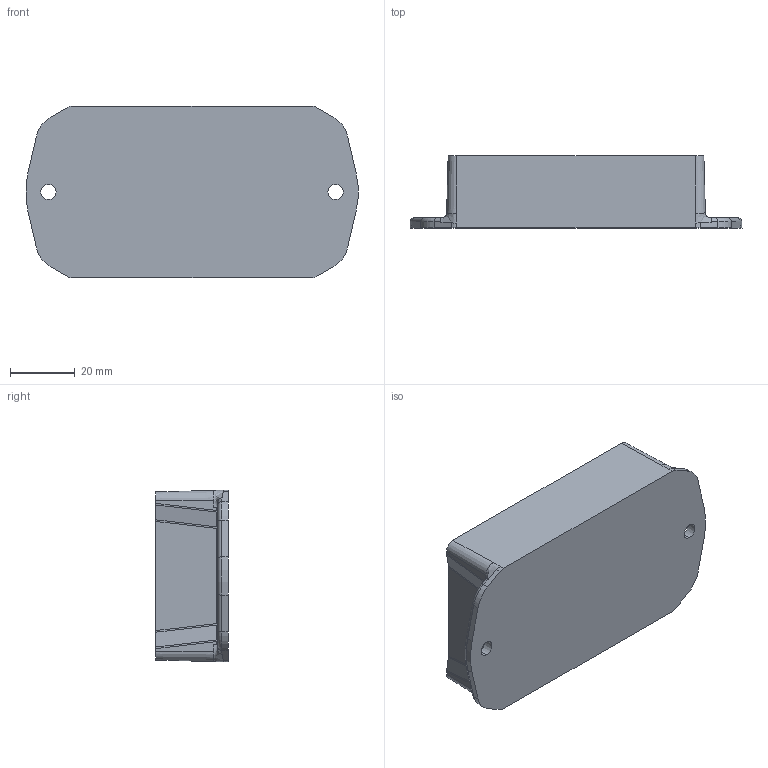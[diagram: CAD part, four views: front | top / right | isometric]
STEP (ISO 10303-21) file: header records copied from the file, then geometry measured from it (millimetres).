
FILE_DESCRIPTION (( 'STEP AP214' ), '1' );
FILE_NAME ('BX-2308BMB.STEP', '2010-11-03T20:20:42', ( 'Designer2010' ), ( '' ), 'SwSTEP 2.0', 'SolidWorks 2010', '' );
FILE_SCHEMA (( 'AUTOMOTIVE_DESIGN' ));
Length unit declared in the file: inch
Products named in the file (1): BX-2308BMB
Bounding box: 102.78 x 22.35 x 53.24 mm (x, y, z)
Volume: 23148.9 mm3; surface area: 21286.8 mm2
Topology: 1 solids, 1 shells, 127 faces, 354 edges, 238 vertices
Faces by surface type: cylinder 50, plane 37, cone 18, bspline 16, torus 6
Entity records: 12256 total; most frequent: CARTESIAN_POINT 9146, ORIENTED_EDGE 708, DIRECTION 570, EDGE_CURVE 354, VERTEX_POINT 238, AXIS2_PLACEMENT_3D 214, LINE 142, VECTOR 142
